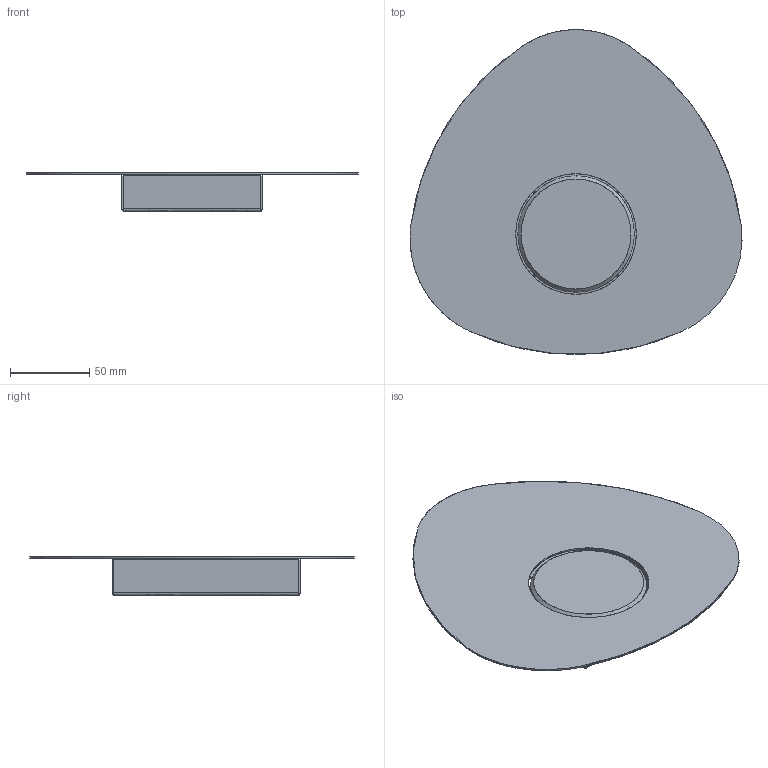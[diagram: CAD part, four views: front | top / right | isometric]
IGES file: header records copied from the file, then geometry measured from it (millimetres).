
Start section: SolidWorks IGES file using analytic representation for surfaces
Global section: file name: F:\GABRYSIA\MODELE 3D\ORGANIC-I-8303-8305-WWW\ORGANIC-I-8303-8305.IGS; native system: SolidWorks 2017; preprocessor: SolidWorks 2017; author: Togambi; date: 201023.160227; units: millimetre
Bounding box: 209.43 x 205 x 24.5 mm (x, y, z)
Surface area: 115553.2 mm2 (no closed solid volume)
Topology: 0 solids, 0 shells, 113 faces, 1840 edges, 1840 vertices
Faces by surface type: bspline 60, revolution 53
